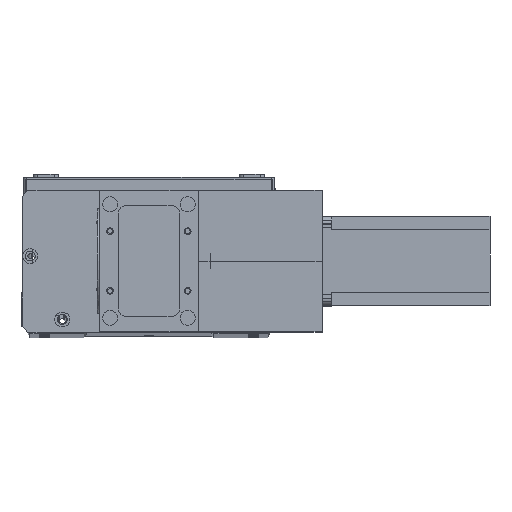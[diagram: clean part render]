
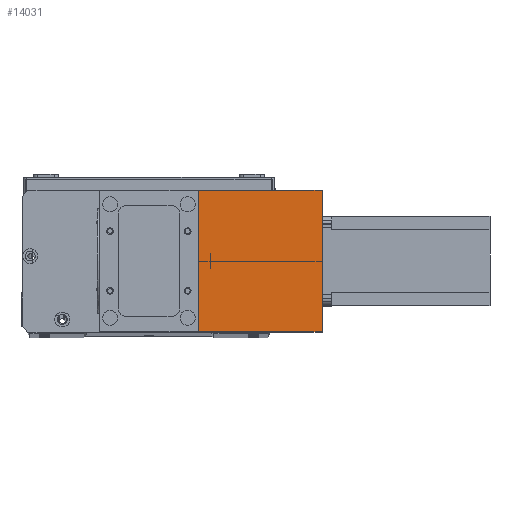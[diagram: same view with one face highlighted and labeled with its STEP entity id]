
A CAD part, top view. The second image highlights one B-rep face of the part: STEP entity #14031.
In plain terms, the highlighted planar face has unit normal (0, 0, 1) as drawn and (1, 0, 0) by its records, which use the part's own axes.
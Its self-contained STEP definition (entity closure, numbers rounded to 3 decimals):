
#323 = DIRECTION ( 'NONE',  ( 0., 0., -1. ) ) ;
#912 = ORIENTED_EDGE ( 'NONE', *, *, #26226, .F. ) ;
#1579 = ORIENTED_EDGE ( 'NONE', *, *, #24191, .T. ) ;
#2123 = VERTEX_POINT ( 'NONE', #4653 ) ;
#2494 = CARTESIAN_POINT ( 'NONE',  ( 82., 0., 83. ) ) ;
#2677 = CARTESIAN_POINT ( 'NONE',  ( 82., 0., 0. ) ) ;
#3281 = ORIENTED_EDGE ( 'NONE', *, *, #24703, .F. ) ;
#4653 = CARTESIAN_POINT ( 'NONE',  ( 82., 0., 83. ) ) ;
#6311 = VERTEX_POINT ( 'NONE', #10107 ) ;
#6472 = LINE ( 'NONE', #17596, #28989 ) ;
#6610 = CARTESIAN_POINT ( 'NONE',  ( 82., 95., 0. ) ) ;
#7049 = DIRECTION ( 'NONE',  ( 0., 0., 1. ) ) ;
#7112 = DIRECTION ( 'NONE',  ( -1., 0., 0. ) ) ;
#7117 = PLANE ( 'NONE',  #21484 ) ;
#7206 = CARTESIAN_POINT ( 'NONE',  ( 82., 0., 83. ) ) ;
#9505 = DIRECTION ( 'NONE',  ( 0., 0., -1. ) ) ;
#9960 = VERTEX_POINT ( 'NONE', #6610 ) ;
#10107 = CARTESIAN_POINT ( 'NONE',  ( 82., 0., 0. ) ) ;
#12811 = VERTEX_POINT ( 'NONE', #16046 ) ;
#12888 = FACE_OUTER_BOUND ( 'NONE', #22484, .T. ) ;
#14031 = ADVANCED_FACE ( 'NONE', ( #12888 ), #7117, .F. ) ;
#14760 = ORIENTED_EDGE ( 'NONE', *, *, #20249, .T. ) ;
#16046 = CARTESIAN_POINT ( 'NONE',  ( 82., 95., 83. ) ) ;
#17596 = CARTESIAN_POINT ( 'NONE',  ( 82., 0., 83. ) ) ;
#18099 = LINE ( 'NONE', #2494, #28535 ) ;
#19866 = DIRECTION ( 'NONE',  ( 0., 1., 0. ) ) ;
#20249 = EDGE_CURVE ( 'NONE', #2123, #6311, #18099, .T. ) ;
#21484 = AXIS2_PLACEMENT_3D ( 'NONE', #7206, #7112, #7049 ) ;
#21834 = LINE ( 'NONE', #25315, #27002 ) ;
#22121 = LINE ( 'NONE', #2677, #27291 ) ;
#22484 = EDGE_LOOP ( 'NONE', ( #1579, #3281, #912, #14760 ) ) ;
#24191 = EDGE_CURVE ( 'NONE', #6311, #9960, #22121, .T. ) ;
#24703 = EDGE_CURVE ( 'NONE', #12811, #9960, #21834, .T. ) ;
#25315 = CARTESIAN_POINT ( 'NONE',  ( 82., 95., 83. ) ) ;
#26226 = EDGE_CURVE ( 'NONE', #2123, #12811, #6472, .T. ) ;
#27002 = VECTOR ( 'NONE', #323, 1000. ) ;
#27291 = VECTOR ( 'NONE', #27556, 1000. ) ;
#27556 = DIRECTION ( 'NONE',  ( 0., 1., 0. ) ) ;
#28535 = VECTOR ( 'NONE', #9505, 1000. ) ;
#28989 = VECTOR ( 'NONE', #19866, 1000. ) ;
